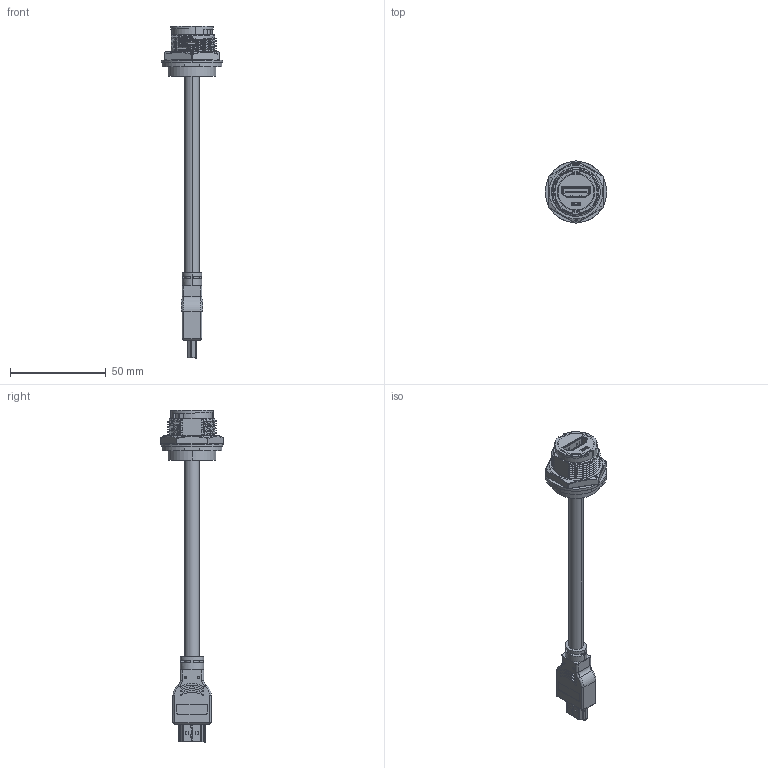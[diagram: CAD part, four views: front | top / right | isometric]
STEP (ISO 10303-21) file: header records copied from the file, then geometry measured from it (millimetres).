
FILE_DESCRIPTION (( 'STEP AP203' ), '1' );
FILE_NAME ('RR-1H1200-02-XX.STEP', '2025-02-14T06:02:44', ( '' ), ( '' ), 'SwSTEP 2.0', 'SolidWorks 2019', '' );
FILE_SCHEMA (( 'CONFIG_CONTROL_DESIGN' ));
Products named in the file (1): RR-1H1200-02-XX
Bounding box: 32 x 32.93 x 173.4 mm (x, y, z)
Volume: 22566 mm3; surface area: 15148.3 mm2
Topology: 3 solids, 3 shells, 2262 faces, 6435 edges, 4153 vertices
Faces by surface type: plane 1539, cylinder 568, bspline 78, torus 32, cone 25, sphere 20
Entity records: 84118 total; most frequent: CARTESIAN_POINT 25956, ORIENTED_EDGE 12802, DIRECTION 11260, EDGE_CURVE 6401, VECTOR 4760, LINE 4760, VERTEX_POINT 4148, AXIS2_PLACEMENT_3D 3250
